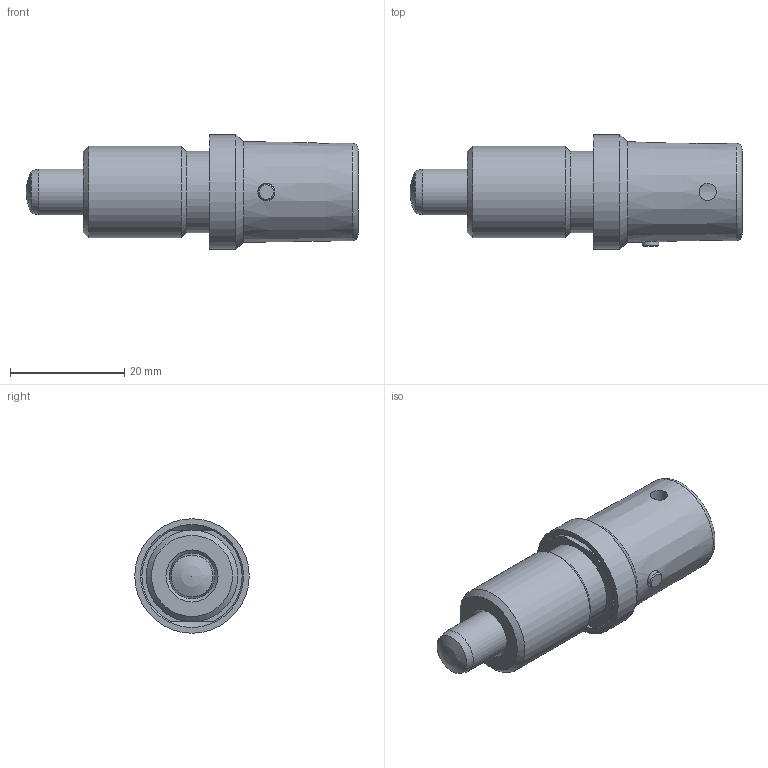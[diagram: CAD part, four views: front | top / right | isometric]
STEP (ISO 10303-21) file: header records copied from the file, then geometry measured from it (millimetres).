
FILE_DESCRIPTION( ( 'STEP AP203' ), '1' );
FILE_NAME( 'C:/Temp/Ganter_Step_05_03_2020/data/3_1/gn816/gn_816_b/Locking plunger GN 816-8-M16x1,5-B (deactivated).stp', '2020-03-12T08:55:57', ( 'License CC BY-ND 4.0' ), ( 'CADENAS' ), ' ', 'PARTsolutions', ' ' );
FILE_SCHEMA( ( 'CONFIG_CONTROL_DESIGN' ) );
Length unit declared in the file: millimetre
Products named in the file (3): Locking plunger GN 816-8-M16x1,5-B (deactivated); _GN 816-8-M16x1,5-B(0)-b2; _GN 816-8-M16x1,5-Bb1
Assembly tree (2 placements, depth 2):
  Locking plunger GN 816-8-M16x1,5-B (deactivated)
    _GN 816-8-M16x1,5-B(0)-b2
    _GN 816-8-M16x1,5-Bb1
Bounding box: 58 x 20 x 20 mm (x, y, z)
Volume: 9416.9 mm3; surface area: 6152.3 mm2
Topology: 2 solids, 2 shells, 40 faces, 79 edges, 49 vertices
Faces by surface type: cylinder 14, plane 12, cone 11, torus 2, sphere 1
Full cylindrical faces by diameter (mm): 2.9 x2, 3 x2, 7 x1, 8 x2, 11.1 x1, 14.2 x1, 16 x1, 18 x1, 20 x1
Entity records: 1288 total; most frequent: CARTESIAN_POINT 462, DIRECTION 160, ORIENTED_EDGE 96, EDGE_LOOP 78, AXIS2_PLACEMENT_3D 77, FACE_OUTER_BOUND 54, EDGE_CURVE 48, VERTEX_POINT 45
